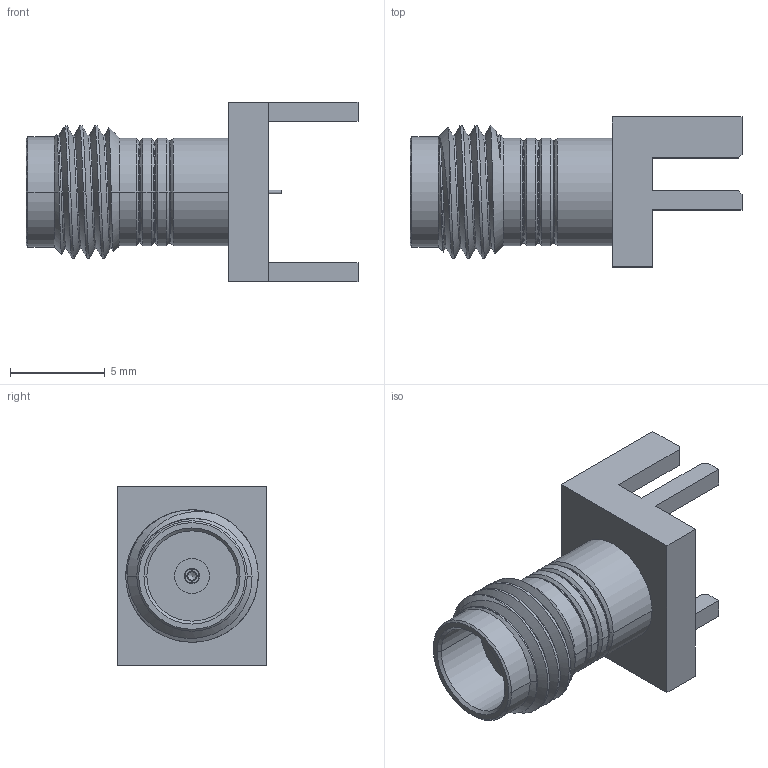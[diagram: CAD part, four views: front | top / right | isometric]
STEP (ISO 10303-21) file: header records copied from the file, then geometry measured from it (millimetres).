
FILE_DESCRIPTION (( 'STEP AP214' ), '1' );
FILE_NAME ('OL TMB-E8FS-1S1.STEP', '2021-06-25T03:41:53', ( '' ), ( '' ), 'SwSTEP 2.0', 'SolidWorks 2019', '' );
FILE_SCHEMA (( 'AUTOMOTIVE_DESIGN' ));
Length unit declared in the file: millimetre
Products named in the file (1): OL TMB-E8FS-1S1
Bounding box: 17.56 x 7.92 x 9.52 mm (x, y, z)
Volume: 425.3 mm3; surface area: 650.9 mm2
Topology: 1 solids, 1 shells, 129 faces, 334 edges, 211 vertices
Faces by surface type: plane 40, cone 38, cylinder 33, torus 16, bspline 2
Full cylindrical faces by diameter (mm): 0.178 x1, 0.55 x1, 0.804 x1
Entity records: 5410 total; most frequent: CARTESIAN_POINT 2362, ORIENTED_EDGE 652, DIRECTION 609, EDGE_CURVE 326, AXIS2_PLACEMENT_3D 243, VERTEX_POINT 207, EDGE_LOOP 137, FACE_OUTER_BOUND 132
